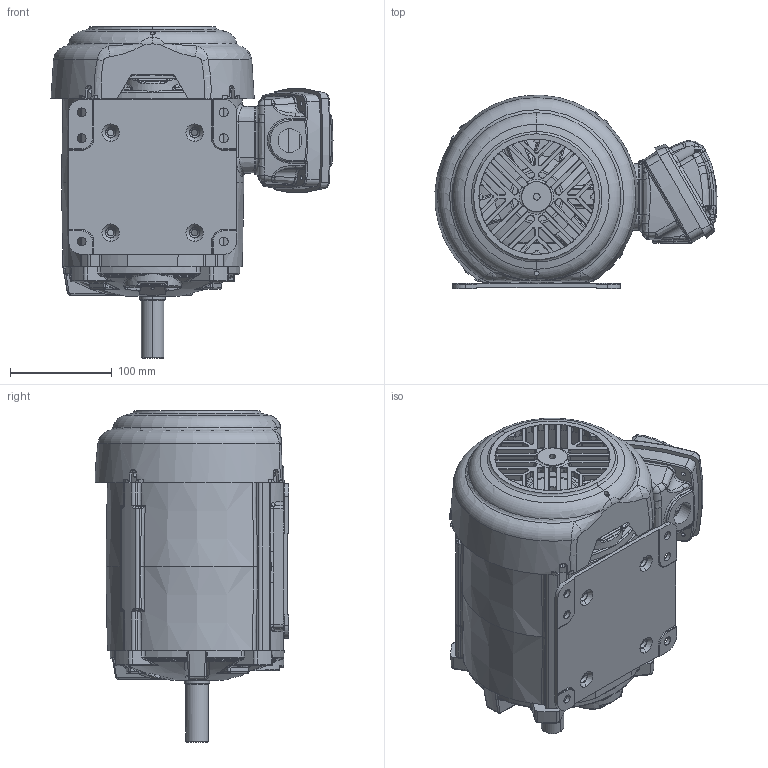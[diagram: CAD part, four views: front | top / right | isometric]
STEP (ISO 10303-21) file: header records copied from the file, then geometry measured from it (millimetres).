
FILE_DESCRIPTION((''),'2;1');
FILE_NAME('140_GP_ASSY_ASM','2013-10-24T',('emd2341'),('Nidec Motor Corporation'),'PRO/ENGINEER BY PARAMETRIC TECHNOLOGY CORPORATION, 2013150','PRO/ENGINEER BY PARAMETRIC TECHNOLOGY CORPORATION, 2013150','');
FILE_SCHEMA(('CONFIG_CONTROL_DESIGN'));
Length unit declared in the file: inch
Products named in the file (10): 0163450-010; 0142749; 0374881; 0954898; 0774783; 0373679; SHAFT; 0453655; 0108223; 140_GP_ASSY_ASM
Assembly tree (9 placements, depth 2):
  140_GP_ASSY_ASM
    0163450-010
    0142749
    0374881
    0954898
    0774783
    0373679
    SHAFT
    0453655
    0108223
Bounding box: 277.34 x 190.04 x 326.48 mm (x, y, z)
Volume: 2230754.1 mm3; surface area: 659106.2 mm2
Topology: 11 solids, 11 shells, 2526 faces, 6273 edges, 3727 vertices
Faces by surface type: bspline 887, cylinder 509, plane 393, torus 361, cone 310, sphere 49, revolution 9, extrusion 8
Entity records: 113800 total; most frequent: CARTESIAN_POINT 59658, ORIENTED_EDGE 12430, DIRECTION 10007, EDGE_CURVE 6215, AXIS2_PLACEMENT_3D 4264, VERTEX_POINT 3727, EDGE_LOOP 2682, CIRCLE 2621
